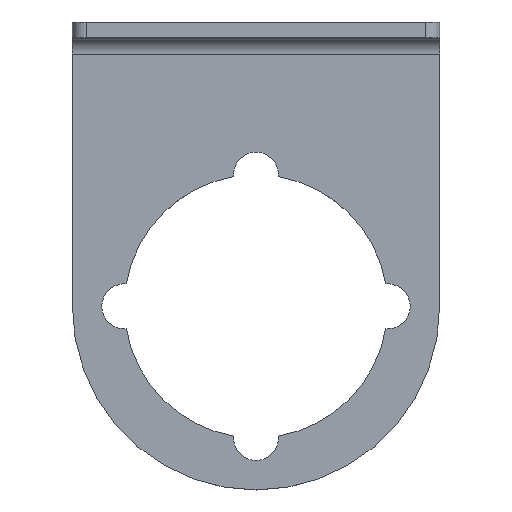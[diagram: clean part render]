
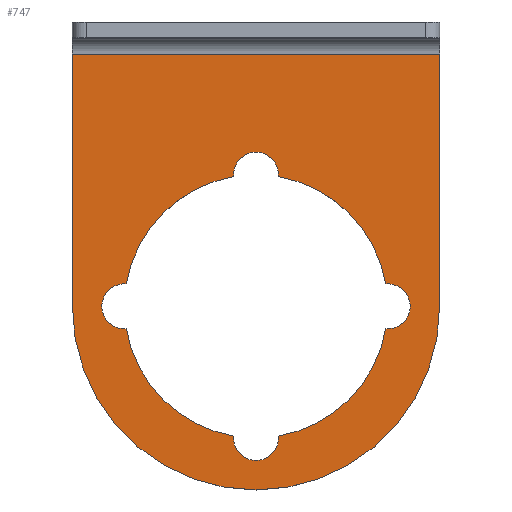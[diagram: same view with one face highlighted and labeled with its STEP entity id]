
A CAD part, top view. The second image highlights one B-rep face of the part: STEP entity #747.
In plain terms, the highlighted planar face has unit normal (0, 0, 1).
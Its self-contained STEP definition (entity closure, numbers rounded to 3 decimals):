
#303=CARTESIAN_POINT('',(0.0,-41.,2.3));
#304=VERTEX_POINT('',#303);
#311=CARTESIAN_POINT('',(0.0,-4.6,2.3));
#312=VERTEX_POINT('',#311);
#313=CARTESIAN_POINT('',(0.0,-41.,2.3));
#314=DIRECTION('',(0.0,1.0,0.0));
#315=VECTOR('',#314,36.4);
#316=LINE('',#313,#315);
#317=EDGE_CURVE('',#304,#312,#316,.T.);
#578=CARTESIAN_POINT('',(53.,-4.6,2.3));
#579=VERTEX_POINT('',#578);
#587=CARTESIAN_POINT('',(53.,-41.,2.3));
#588=VERTEX_POINT('',#587);
#589=CARTESIAN_POINT('',(53.,-4.6,2.3));
#590=DIRECTION('',(0.0,-1.0,0.0));
#591=VECTOR('',#590,36.4);
#592=LINE('',#589,#591);
#593=EDGE_CURVE('',#579,#588,#592,.T.);
#629=CARTESIAN_POINT('',(53.,-4.6,2.3));
#630=DIRECTION('',(-1.0,0.0,0.0));
#631=VECTOR('',#630,53.);
#632=LINE('',#629,#631);
#633=EDGE_CURVE('',#579,#312,#632,.T.);
#656=CARTESIAN_POINT('',(26.5,-29.144,2.3));
#657=DIRECTION('',(0.0,0.0,1.0));
#658=DIRECTION('',(1.0,0.0,0.0));
#659=AXIS2_PLACEMENT_3D('',#656,#657,#658);
#660=PLANE('',#659);
#661=ORIENTED_EDGE('',*,*,#633,.T.);
#662=ORIENTED_EDGE('',*,*,#317,.F.);
#663=CARTESIAN_POINT('',(26.5,-41.,2.3));
#664=DIRECTION('',(0.0,0.0,-1.0));
#665=DIRECTION('',(1.0,0.0,0.0));
#666=AXIS2_PLACEMENT_3D('',#663,#664,#665);
#667=CIRCLE('',#666,26.5);
#668=EDGE_CURVE('',#588,#304,#667,.T.);
#669=ORIENTED_EDGE('',*,*,#668,.F.);
#670=ORIENTED_EDGE('',*,*,#593,.F.);
#671=EDGE_LOOP('',(#661,#662,#669,#670));
#672=FACE_OUTER_BOUND('',#671,.T.);
#673=CARTESIAN_POINT('',(29.738,-22.278,2.3));
#674=VERTEX_POINT('',#673);
#675=CARTESIAN_POINT('',(45.222,-37.762,2.3));
#676=VERTEX_POINT('',#675);
#677=CARTESIAN_POINT('',(26.5,-41.,2.3));
#678=DIRECTION('',(0.0,0.0,-1.));
#679=DIRECTION('',(-0.985,-0.17,0.0));
#680=AXIS2_PLACEMENT_3D('',#677,#678,#679);
#681=CIRCLE('',#680,19.);
#682=EDGE_CURVE('',#674,#676,#681,.T.);
#683=ORIENTED_EDGE('',*,*,#682,.T.);
#684=CARTESIAN_POINT('',(45.222,-44.238,2.3));
#685=VERTEX_POINT('',#684);
#686=CARTESIAN_POINT('',(45.5,-41.,2.3));
#687=DIRECTION('',(0.0,0.0,-1.0));
#688=DIRECTION('',(0.086,0.996,0.0));
#689=AXIS2_PLACEMENT_3D('',#686,#687,#688);
#690=CIRCLE('',#689,3.25);
#691=EDGE_CURVE('',#676,#685,#690,.T.);
#692=ORIENTED_EDGE('',*,*,#691,.T.);
#693=CARTESIAN_POINT('',(29.738,-59.722,2.3));
#694=VERTEX_POINT('',#693);
#695=CARTESIAN_POINT('',(26.5,-41.,2.3));
#696=DIRECTION('',(0.0,0.0,-1.));
#697=DIRECTION('',(-0.17,0.985,0.0));
#698=AXIS2_PLACEMENT_3D('',#695,#696,#697);
#699=CIRCLE('',#698,19.);
#700=EDGE_CURVE('',#685,#694,#699,.T.);
#701=ORIENTED_EDGE('',*,*,#700,.T.);
#702=CARTESIAN_POINT('',(23.262,-59.722,2.3));
#703=VERTEX_POINT('',#702);
#704=CARTESIAN_POINT('',(26.5,-60.,2.3));
#705=DIRECTION('',(0.0,0.0,-1.0));
#706=DIRECTION('',(0.996,-0.086,0.0));
#707=AXIS2_PLACEMENT_3D('',#704,#705,#706);
#708=CIRCLE('',#707,3.25);
#709=EDGE_CURVE('',#694,#703,#708,.T.);
#710=ORIENTED_EDGE('',*,*,#709,.T.);
#711=CARTESIAN_POINT('',(7.778,-44.238,2.3));
#712=VERTEX_POINT('',#711);
#713=CARTESIAN_POINT('',(26.5,-41.,2.3));
#714=DIRECTION('',(0.0,0.0,-1.));
#715=DIRECTION('',(0.985,0.17,0.0));
#716=AXIS2_PLACEMENT_3D('',#713,#714,#715);
#717=CIRCLE('',#716,19.0);
#718=EDGE_CURVE('',#703,#712,#717,.T.);
#719=ORIENTED_EDGE('',*,*,#718,.T.);
#720=CARTESIAN_POINT('',(7.778,-37.762,2.3));
#721=VERTEX_POINT('',#720);
#722=CARTESIAN_POINT('',(7.5,-41.,2.3));
#723=DIRECTION('',(0.0,0.0,-1.0));
#724=DIRECTION('',(-0.086,-0.996,0.0));
#725=AXIS2_PLACEMENT_3D('',#722,#723,#724);
#726=CIRCLE('',#725,3.25);
#727=EDGE_CURVE('',#712,#721,#726,.T.);
#728=ORIENTED_EDGE('',*,*,#727,.T.);
#729=CARTESIAN_POINT('',(23.262,-22.278,2.3));
#730=VERTEX_POINT('',#729);
#731=CARTESIAN_POINT('',(26.5,-41.,2.3));
#732=DIRECTION('',(0.0,0.0,-1.));
#733=DIRECTION('',(0.17,-0.985,0.0));
#734=AXIS2_PLACEMENT_3D('',#731,#732,#733);
#735=CIRCLE('',#734,19.0);
#736=EDGE_CURVE('',#721,#730,#735,.T.);
#737=ORIENTED_EDGE('',*,*,#736,.T.);
#738=CARTESIAN_POINT('',(26.5,-22.0,2.3));
#739=DIRECTION('',(0.0,0.0,-1.0));
#740=DIRECTION('',(-0.996,0.086,0.0));
#741=AXIS2_PLACEMENT_3D('',#738,#739,#740);
#742=CIRCLE('',#741,3.25);
#743=EDGE_CURVE('',#730,#674,#742,.T.);
#744=ORIENTED_EDGE('',*,*,#743,.T.);
#745=EDGE_LOOP('',(#683,#692,#701,#710,#719,#728,#737,#744));
#746=FACE_BOUND('',#745,.T.);
#747=ADVANCED_FACE('',(#672,#746),#660,.T.);
